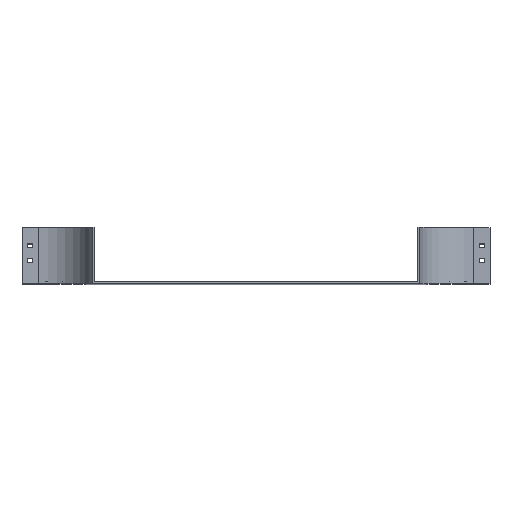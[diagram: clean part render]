
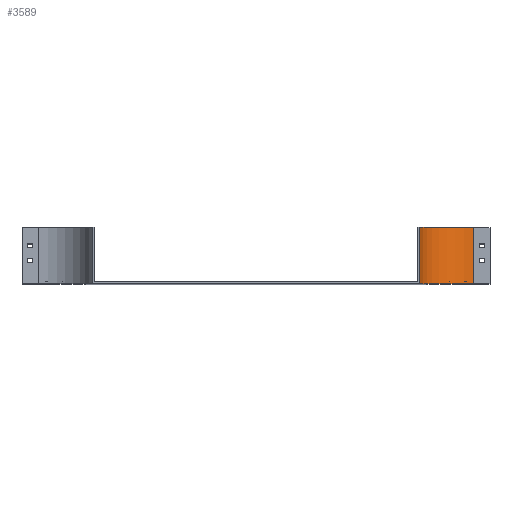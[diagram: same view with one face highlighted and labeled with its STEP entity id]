
A CAD part, top view. The second image highlights one B-rep face of the part: STEP entity #3589.
In plain terms, the highlighted cylindrical face has radius 100 mm (diameter 200 mm), a partial arc.
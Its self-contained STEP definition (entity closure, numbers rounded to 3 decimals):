
#58 = EDGE_CURVE ( 'NONE', #72, #1713, #2586, .T. ) ;
#72 = VERTEX_POINT ( 'NONE', #2515 ) ;
#96 = DIRECTION ( 'NONE',  ( 0., -1., 0. ) ) ;
#219 = CIRCLE ( 'NONE', #2449, 100. ) ;
#253 = EDGE_CURVE ( 'NONE', #3792, #1771, #219, .T. ) ;
#408 = DIRECTION ( 'NONE',  ( 0., 0., -1. ) ) ;
#414 = CARTESIAN_POINT ( 'NONE',  ( 0., 0., 0. ) ) ;
#506 = VECTOR ( 'NONE', #3486, 1000. ) ;
#604 = LINE ( 'NONE', #1456, #506 ) ;
#729 = FACE_OUTER_BOUND ( 'NONE', #1446, .T. ) ;
#913 = CARTESIAN_POINT ( 'NONE',  ( -100., 104., 0. ) ) ;
#1023 = CARTESIAN_POINT ( 'NONE',  ( 0., 104., -100. ) ) ;
#1044 = CARTESIAN_POINT ( 'NONE',  ( 0., 104., 0. ) ) ;
#1088 = DIRECTION ( 'NONE',  ( 0., 0., -1. ) ) ;
#1212 = CARTESIAN_POINT ( 'NONE',  ( 0., 0., -100. ) ) ;
#1308 = CARTESIAN_POINT ( 'NONE',  ( 0., 104., -100. ) ) ;
#1446 = EDGE_LOOP ( 'NONE', ( #3004, #1491, #1616, #1745 ) ) ;
#1456 = CARTESIAN_POINT ( 'NONE',  ( -100., 104., 0. ) ) ;
#1491 = ORIENTED_EDGE ( 'NONE', *, *, #2318, .F. ) ;
#1497 = EDGE_CURVE ( 'NONE', #3792, #72, #604, .T. ) ;
#1580 = DIRECTION ( 'NONE',  ( 0., -1., 0. ) ) ;
#1616 = ORIENTED_EDGE ( 'NONE', *, *, #253, .F. ) ;
#1624 = DIRECTION ( 'NONE',  ( 0., -1., 0. ) ) ;
#1713 = VERTEX_POINT ( 'NONE', #1212 ) ;
#1745 = ORIENTED_EDGE ( 'NONE', *, *, #1497, .T. ) ;
#1771 = VERTEX_POINT ( 'NONE', #1023 ) ;
#1843 = CYLINDRICAL_SURFACE ( 'NONE', #3432, 100. ) ;
#1906 = CARTESIAN_POINT ( 'NONE',  ( 0., 104., 0. ) ) ;
#2318 = EDGE_CURVE ( 'NONE', #1771, #1713, #2443, .T. ) ;
#2443 = LINE ( 'NONE', #1308, #3576 ) ;
#2449 = AXIS2_PLACEMENT_3D ( 'NONE', #1044, #1624, #408 ) ;
#2515 = CARTESIAN_POINT ( 'NONE',  ( -100., 0., 0. ) ) ;
#2586 = CIRCLE ( 'NONE', #2829, 100. ) ;
#2829 = AXIS2_PLACEMENT_3D ( 'NONE', #414, #3416, #1088 ) ;
#3004 = ORIENTED_EDGE ( 'NONE', *, *, #58, .T. ) ;
#3082 = DIRECTION ( 'NONE',  ( 0., 0., -1. ) ) ;
#3416 = DIRECTION ( 'NONE',  ( 0., -1., 0. ) ) ;
#3432 = AXIS2_PLACEMENT_3D ( 'NONE', #1906, #1580, #3082 ) ;
#3486 = DIRECTION ( 'NONE',  ( 0., -1., 0. ) ) ;
#3576 = VECTOR ( 'NONE', #96, 1000. ) ;
#3589 = ADVANCED_FACE ( 'NONE', ( #729 ), #1843, .F. ) ;
#3792 = VERTEX_POINT ( 'NONE', #913 ) ;
